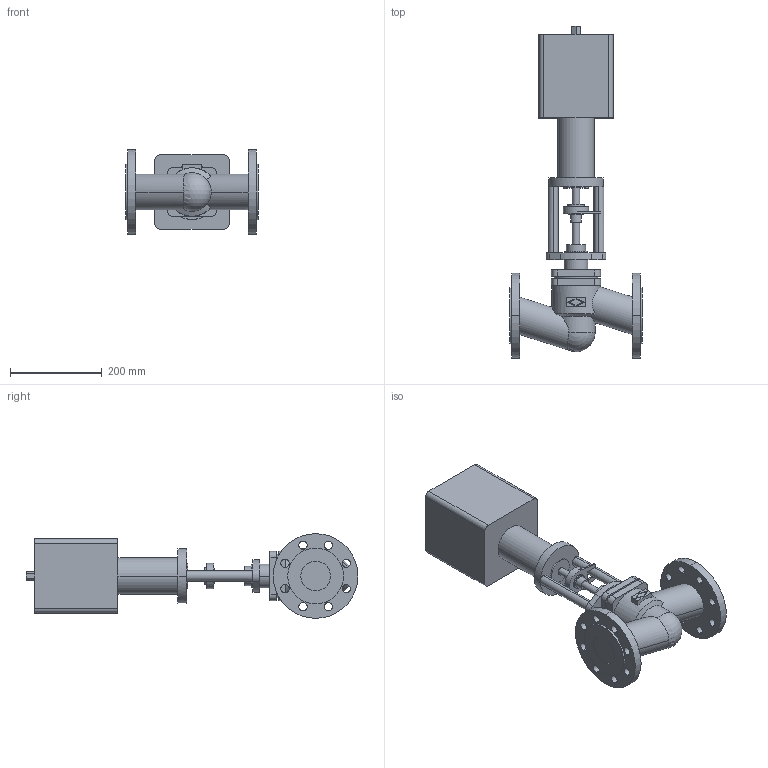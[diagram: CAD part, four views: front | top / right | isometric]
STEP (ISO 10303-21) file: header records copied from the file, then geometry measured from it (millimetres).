
FILE_DESCRIPTION( ( '' ), '1' );
FILE_NAME( 'F:/DE-SHS/TB/OR/04-Sonstiges/daten/files_3d/440-FR2.2/440-PN25-FR2_2/c000003825.stp', '2014-11-06T10:21:15', ( '' ), ( '' ), ' ', ' ', ' ' );
FILE_SCHEMA( ( 'CONFIG_CONTROL_DESIGN' ) );
Length unit declared in the file: millimetre
Products named in the file (2): 1; 2
Bounding box: 290 x 725.5 x 185 mm (x, y, z)
Volume: 9146707.7 mm3; surface area: 522492.7 mm2
Topology: 2 solids, 2 shells, 178 faces, 443 edges, 293 vertices
Faces by surface type: cylinder 98, plane 77, cone 2, sphere 1
Entity records: 6025 total; most frequent: CARTESIAN_POINT 1446, DIRECTION 995, ORIENTED_EDGE 882, EDGE_CURVE 441, AXIS2_PLACEMENT_3D 388, VERTEX_POINT 293, EDGE_LOOP 236, LINE 219
